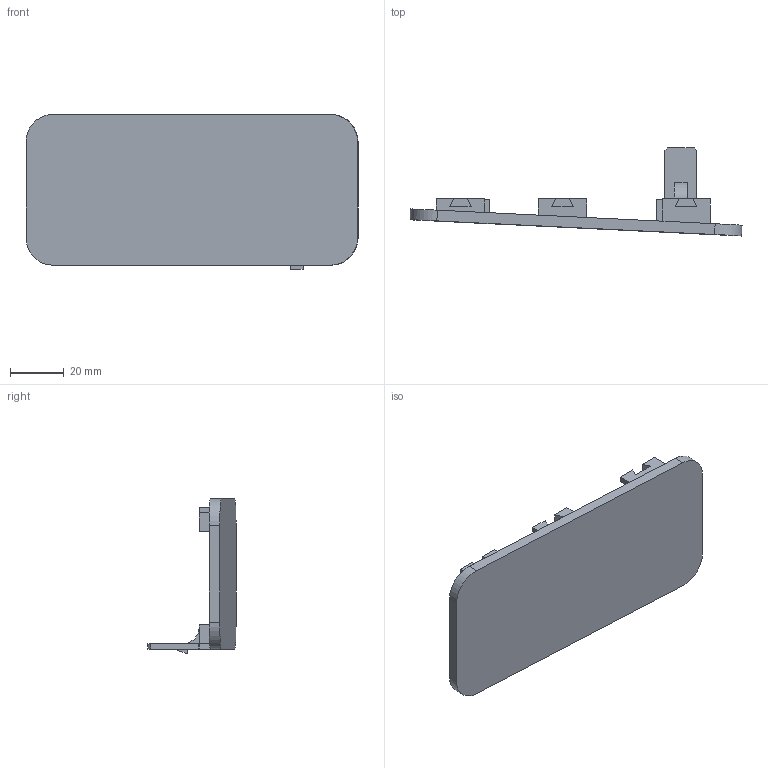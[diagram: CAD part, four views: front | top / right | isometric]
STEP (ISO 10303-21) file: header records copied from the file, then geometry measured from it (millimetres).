
FILE_DESCRIPTION(/* description */ (''),/* implementation_level */ '2;1');
FILE_NAME(/* name */ 'Panel only.step',/* time_stamp */ '2025-11-18T18:54:13-05:00',/* author */ (''),/* organization */ (''),/* preprocessor_version */ 'ST-DEVELOPER v20.1',/* originating_system */ 'Autodesk Translation Framework v14.21.0.0',/* authorisation */ '');
FILE_SCHEMA (('AUTOMOTIVE_DESIGN { 1 0 10303 214 3 1 1 }'));
Length unit declared in the file: millimetre
Products named in the file (1): Rav4 Trunk Panel
Bounding box: 123.45 x 32.74 x 57.6 mm (x, y, z)
Volume: 31779.9 mm3; surface area: 18376.7 mm2
Topology: 2 solids, 2 shells, 110 faces, 303 edges, 201 vertices
Faces by surface type: plane 105, cylinder 5
Entity records: 3465 total; most frequent: CARTESIAN_POINT 615, ORIENTED_EDGE 606, DIRECTION 535, EDGE_CURVE 303, LINE 293, VECTOR 293, VERTEX_POINT 201, AXIS2_PLACEMENT_3D 121
